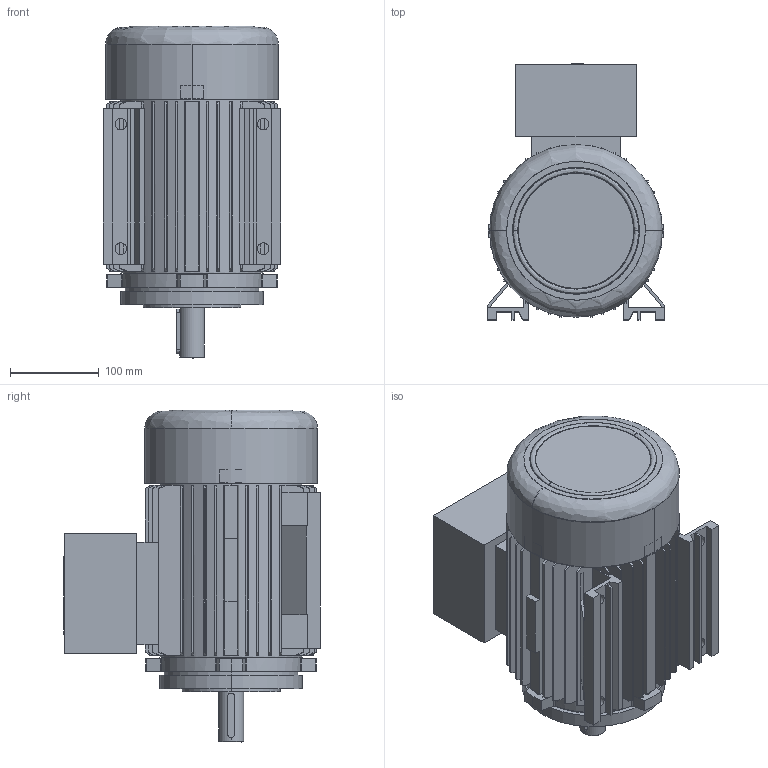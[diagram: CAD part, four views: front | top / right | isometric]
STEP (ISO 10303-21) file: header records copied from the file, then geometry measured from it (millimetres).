
FILE_DESCRIPTION (( 'STEP AP214' ), '1' );
FILE_NAME ('20.17500-F 5AT 100 B34-F130 Exde STANDK.STEP', '2018-11-15T10:22:02', ( '' ), ( '' ), 'SwSTEP 2.0', 'SolidWorks 2018', '' );
FILE_SCHEMA (( 'AUTOMOTIVE_DESIGN' ));
Length unit declared in the file: millimetre
Products named in the file (1): 20.17500-F 5AT 100 B34-F130 Exde STANDK
Bounding box: 200 x 288 x 373.3 mm (x, y, z)
Volume: 4795808.7 mm3; surface area: 895422.4 mm2
Topology: 3 solids, 3 shells, 743 faces, 1933 edges, 1254 vertices
Faces by surface type: plane 417, cylinder 165, cone 143, bspline 18
Entity records: 30986 total; most frequent: CARTESIAN_POINT 6467, ORIENTED_EDGE 3818, DIRECTION 3727, EDGE_CURVE 1909, AXIS2_PLACEMENT_3D 1334, VERTEX_POINT 1254, VECTOR 1059, LINE 1059
